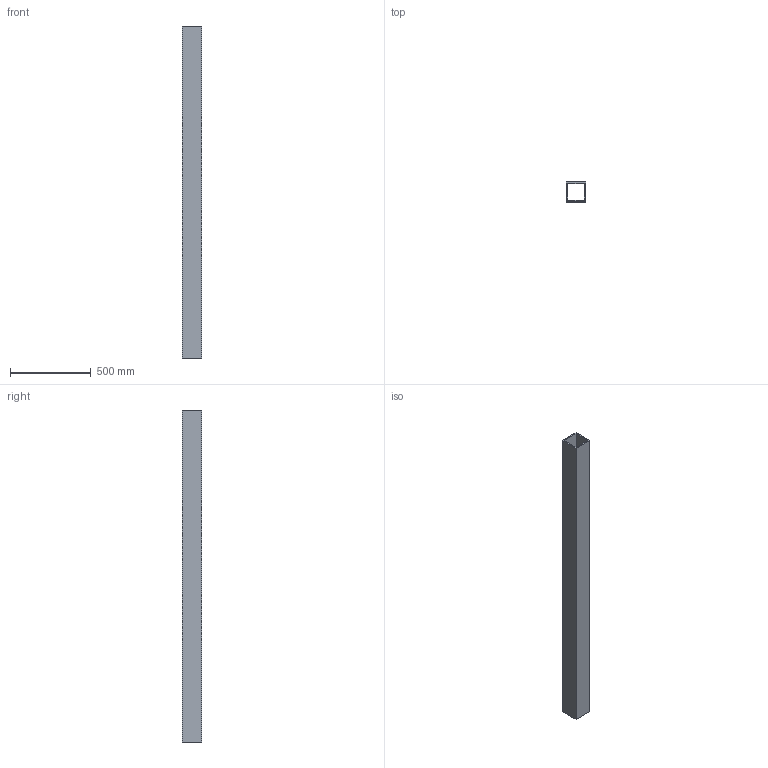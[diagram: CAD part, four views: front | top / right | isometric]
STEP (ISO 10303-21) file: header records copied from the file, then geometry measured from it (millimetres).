
FILE_DESCRIPTION(('Open CASCADE Model'),'2;1');
FILE_NAME('Open CASCADE Shape Model','2026-10-15T15:10:05',('Author'),( 'Open CASCADE'),'Open CASCADE STEP processor 8.0','Open CASCADE 8.0' ,'Unknown');
FILE_SCHEMA(('AUTOMOTIVE_DESIGN { 1 0 10303 214 1 1 1 1 }'));
Length unit declared in the file: millimetre
Products named in the file (1): GRID__0p25_FINAL_P05 171
Bounding box: 120 x 120 x 2050 mm (x, y, z)
Volume: 7347200 mm3; surface area: 1843968 mm2
Topology: 1 solids, 1 shells, 10 faces, 24 edges, 16 vertices
Faces by surface type: plane 10
Entity records: 614 total; most frequent: CARTESIAN_POINT 99, DIRECTION 94, LINE 72, VECTOR 72, ORIENTED_EDGE 48, PCURVE 48, DEFINITIONAL_REPRESENTATION 48, EDGE_CURVE 24
